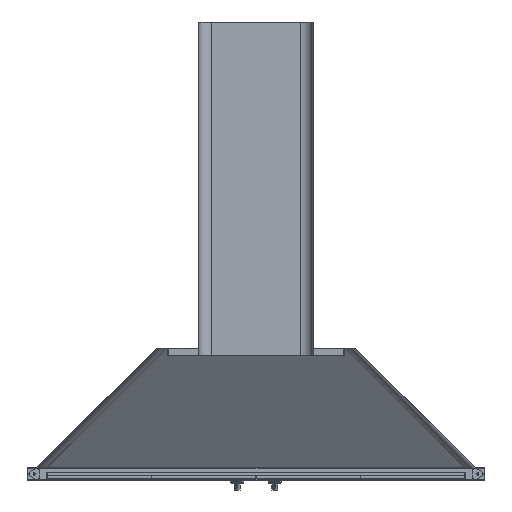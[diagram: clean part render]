
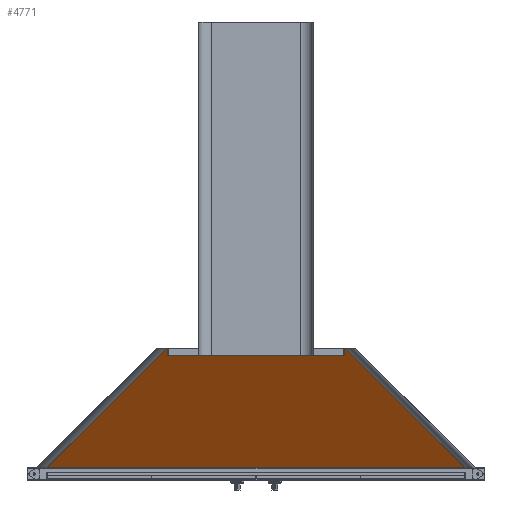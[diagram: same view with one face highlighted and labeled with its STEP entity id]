
A CAD part, left-side view. The second image highlights one B-rep face of the part: STEP entity #4771.
In plain terms, the highlighted planar face has unit normal (-0.809, 0, -0.588).
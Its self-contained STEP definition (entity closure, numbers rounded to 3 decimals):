
#3670=CARTESIAN_POINT('Vertex',(459.108,-501.958,29.3)) ;
#3673=CARTESIAN_POINT('Line Origine',(459.108,0.,29.3)) ;
#3677=CARTESIAN_POINT('Vertex',(459.108,501.958,29.3)) ;
#3876=CARTESIAN_POINT('Line Origine',(356.899,361.28,169.978)) ;
#3880=CARTESIAN_POINT('Vertex',(250.652,215.043,316.214)) ;
#3973=CARTESIAN_POINT('Line Origine',(250.652,0.,316.214)) ;
#3977=CARTESIAN_POINT('Vertex',(250.652,-215.043,316.214)) ;
#4748=CARTESIAN_POINT('Line Origine',(356.899,-361.28,169.978)) ;
#4760=CARTESIAN_POINT('Axis2P3D Location',(458.898,600.,29.589)) ;
#3674=DIRECTION('Vector Direction',(0.,-1.,0.)) ;
#3877=DIRECTION('Vector Direction',(-0.457,-0.629,0.629)) ;
#3974=DIRECTION('Vector Direction',(0.,-1.,0.)) ;
#4749=DIRECTION('Vector Direction',(-0.457,0.629,0.629)) ;
#4761=DIRECTION('Axis2P3D Direction',(0.809,0.,0.588)) ;
#4762=DIRECTION('Axis2P3D XDirection',(-0.588,0.,0.809)) ;
#4763=AXIS2_PLACEMENT_3D('Plane Axis2P3D',#4760,#4761,#4762) ;
#4766=ORIENTED_EDGE('',*,*,#3979,.F.) ;
#4767=ORIENTED_EDGE('',*,*,#3882,.F.) ;
#4768=ORIENTED_EDGE('',*,*,#3679,.T.) ;
#4769=ORIENTED_EDGE('',*,*,#4752,.T.) ;
#3675=VECTOR('Line Direction',#3674,1.) ;
#3878=VECTOR('Line Direction',#3877,1.) ;
#3975=VECTOR('Line Direction',#3974,1.) ;
#4750=VECTOR('Line Direction',#4749,1.) ;
#4771=ADVANCED_FACE('GR Involucro',(#4770),#4764,.F.) ;
#3679=EDGE_CURVE('',#3678,#3671,#3676,.T.) ;
#3882=EDGE_CURVE('',#3678,#3881,#3879,.T.) ;
#3979=EDGE_CURVE('',#3881,#3978,#3976,.T.) ;
#4752=EDGE_CURVE('',#3671,#3978,#4751,.T.) ;
#4765=EDGE_LOOP('',(#4766,#4767,#4768,#4769)) ;
#4770=FACE_OUTER_BOUND('',#4765,.T.) ;
#3676=LINE('Line',#3673,#3675) ;
#3879=LINE('Line',#3876,#3878) ;
#3976=LINE('Line',#3973,#3975) ;
#4751=LINE('Line',#4748,#4750) ;
#4764=PLANE('',#4763) ;
#3671=VERTEX_POINT('',#3670) ;
#3678=VERTEX_POINT('',#3677) ;
#3881=VERTEX_POINT('',#3880) ;
#3978=VERTEX_POINT('',#3977) ;
